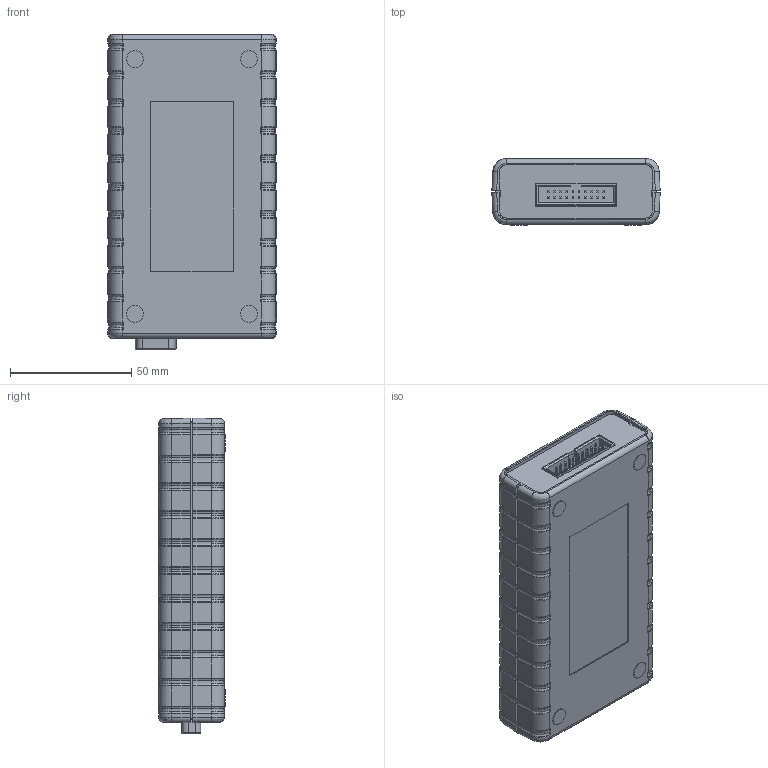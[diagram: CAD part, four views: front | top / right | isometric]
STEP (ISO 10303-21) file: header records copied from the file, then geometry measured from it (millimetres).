
FILE_DESCRIPTION (( 'STEP AP214' ), '1' );
FILE_NAME ('Flasher_Assembly_WEB.STEP', '2026-02-19T08:37:37', ( '' ), ( '' ), 'SwSTEP 2.0', 'SolidWorks 2020', '' );
FILE_SCHEMA (( 'AUTOMOTIVE_DESIGN' ));
Length unit declared in the file: millimetre
Products named in the file (1): Flasher_Assembly_WEB
Bounding box: 69.36 x 27.3 x 130.08 mm (x, y, z)
Surface area: 77040.8 mm2 (no closed solid volume)
Topology: 0 solids, 797 shells, 6236 faces, 20822 edges, 15206 vertices
Faces by surface type: plane 4294, cylinder 1265, bspline 542, cone 54, torus 52, sphere 29
Entity records: 329676 total; most frequent: CARTESIAN_POINT 90377, DIRECTION 32431, ORIENTED_EDGE 31548, EDGE_CURVE 20821, VERTEX_POINT 15206, VECTOR 15197, LINE 15197, AXIS2_PLACEMENT_3D 8617
